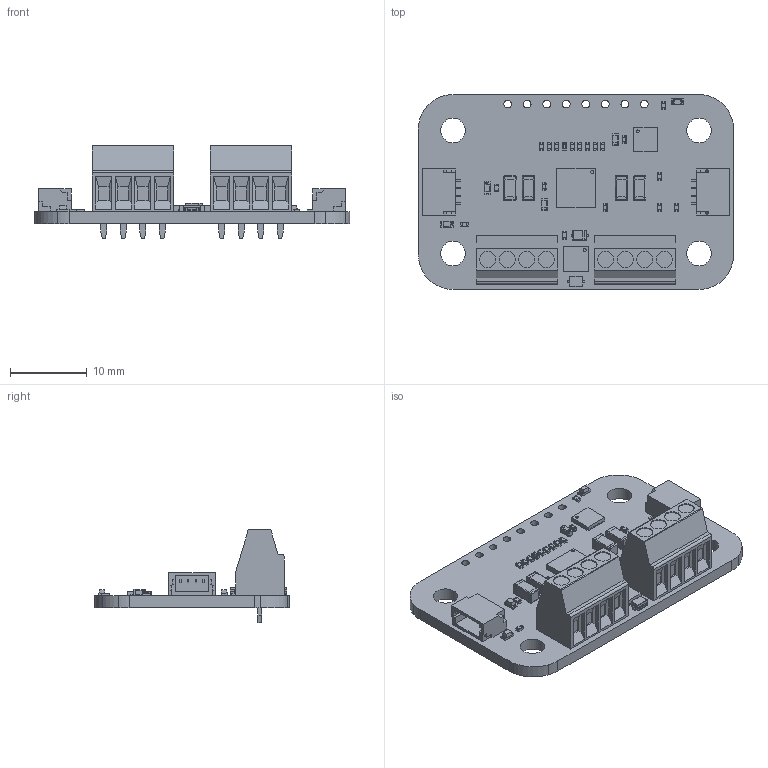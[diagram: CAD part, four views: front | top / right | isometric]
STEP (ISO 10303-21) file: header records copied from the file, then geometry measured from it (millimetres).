
FILE_DESCRIPTION(('Open CASCADE Model'),'2;1');
FILE_NAME('Open CASCADE Shape Model','2026-06-09T15:56:18',('Author'),( 'Open CASCADE'),'Open CASCADE STEP processor 7.5','Open CASCADE 7.5' ,'Unknown');
FILE_SCHEMA(('AUTOMOTIVE_DESIGN { 1 0 10303 214 1 1 1 1 }'));
Length unit declared in the file: millimetre
Products named in the file (73): PCB; Board; Open CASCADE STEP translator 7.5 2.1.1; R20; RES-0402; D5; 8484396816; Body; Open CASCADE STEP translator 6.8 2.1.1; Lead; D2; 8731335536; 8779476032; Extruded; R6; R11; R19; Q1; 8774852816; 8774850752; Cylinder; 8774853824; D4; HSMx-190; R18; R13; D3; C1; CAP-0402; J3; Unnamed-DG308-2_54-04P-14-00A_H_; J5; R16; C4; CAP-0603; C3; R9; U1; 11866052688; Open CASCADE STEP translator 7.5 16.1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
Assembly tree (125 placements, depth 5):
  PCB
    Board
      Open CASCADE STEP translator 7.5 2.1.1
    R20
      RES-0402
    D5
      8484396816
        Body
          Open CASCADE STEP translator 6.8 2.1.1
        Lead  x2
    D2
      8731335536
        Body
          Open CASCADE STEP translator 6.8 2.1.1
        Lead  x2
      8779476032
        Extruded
    R6
      RES-0402
    R11
      RES-0402
    R19
      RES-0402
    Q1
      8774852816  x8
        Extruded
      8774850752
        Cylinder
      8774853824
        Extruded
    D4
      HSMx-190
    R18
      RES-0402
    R13
      RES-0402
    D3
      HSMx-190
    C1
      CAP-0402
    J3
      Unnamed-DG308-2_54-04P-14-00A_H_
    J5
      Unnamed-DG308-2_54-04P-14-00A_H_
    R16
      RES-0402
    C4
      CAP-0603
    C3
      CAP-0402
    R9
      RES-0402
    U1
      11866052688
        Open CASCADE STEP translator 7.5 16.1
        Body
          Open CASCADE STEP translator 7.5 16.2.1
        Pin Shape  x20
          Open CASCADE STEP translator 7.5 16.3.1
    J1
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Bounding box: 41 x 25.36 x 12.15 mm (x, y, z)
Volume: 2657.5 mm3; surface area: 3861.9 mm2
Topology: 73 solids, 74 shells, 2355 faces, 5645 edges, 3367 vertices
Faces by surface type: plane 1635, cylinder 504, sphere 108, bspline 96, torus 12
Full cylindrical faces by diameter (mm): 0.07 x3, 0.388 x1, 0.4 x2, 1 x16, 3.2 x4
Entity records: 25688 total; most frequent: CARTESIAN_POINT 5864, DIRECTION 3650, ORIENTED_EDGE 3417, EDGE_CURVE 1709, LINE 1236, VECTOR 1236, AXIS2_PLACEMENT_3D 1207, VERTEX_POINT 1009
